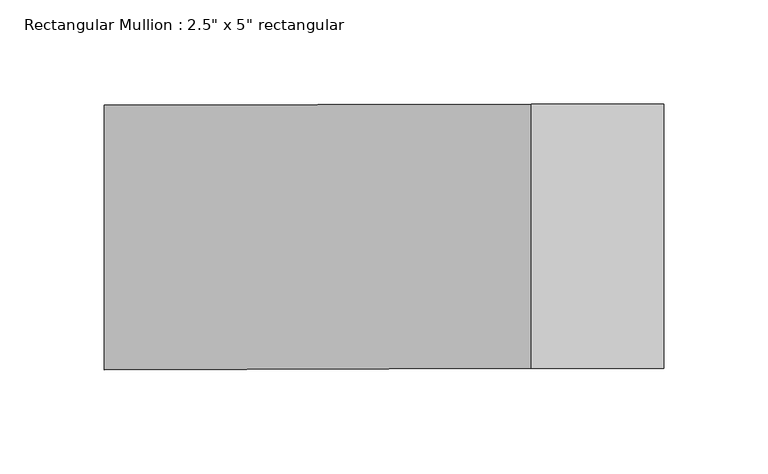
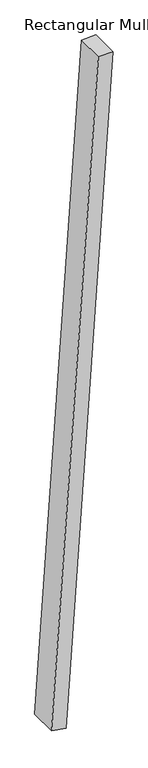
"""IFC4 building model written with IfcOpenShell, lengths in millimetres: member geometry."""

from ifc_helpers import new_model, si_unit, point, frame, frame_2d, origin, place, context, project, spatial, polyline, circle_curve, trimmed, segment, composite_curve, outline, extrude, source, transform, mapped, element, save


def member_e0f06050(model_context):
    return source(origin(), model_context, "Body", "SweptSolid", [
        extrude(outline(composite_curve([segment(trimmed(circle_curve(frame_2d((0.0, -22698.5042157)), 22698.5042157), [point((-3049.7794467, -205.817872))], [point((0.0, 0.0))], False, "CARTESIAN"), True, "CONTINUOUS"), segment(polyline([(0.0, 0.0), (-2.1829599, -63.5001053)]), True, "CONTINUOUS"), segment(trimmed(circle_curve(frame_2d((0.0, -22698.5042157)), 22635.0042157), [point((-2.1829599, -63.5001053))], [point((-3039.1290465, -268.4549406))], True, "CARTESIAN"), True, "CONTINUOUS"), segment(polyline([(-3039.1290465, -268.4549406), (-3049.7794467, -205.817872)]), True, "CONTINUOUS")], self_intersect=False)), frame((0.0, -63.5, 0.0), z_axis=(0.0, 1.0, 0.0), x_axis=(0.0, 0.0, 1.0)), (0.0, 0.0, 1.0), 127.0),
    ])


if __name__ == "__main__":
    model = new_model("IFC4")
    model_context = context("Model", 3, world=origin())
    ifc_project = project(units=[si_unit("LENGTHUNIT", "METRE", prefix="MILLI")], contexts=[model_context])
    site = spatial("IfcSite", under=ifc_project)
    building = spatial("IfcBuilding", under=site)
    placement = place(None, origin())
    member_shape = member_e0f06050(model_context)
    element("IfcMember", 1, ObjectType="Rectangular Mullion : 2.5\" x 5\" rectangular", at=placement, inside=building, context=model_context, shape_type="MappedRepresentation", body=[
        mapped(member_shape, transform((0.0, 0.0, 0.0), x_axis=(1.0, 0.0, 0.0), y_axis=(0.0, 1.0, 0.0), z_axis=(0.0, 0.0, 1.0))),
    ])
    save(model, "model.ifc")
